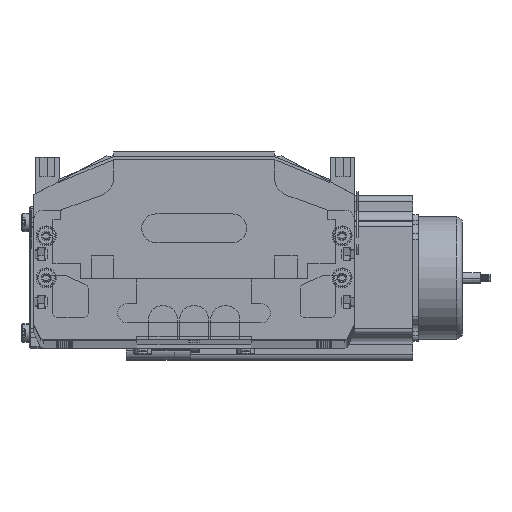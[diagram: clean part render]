
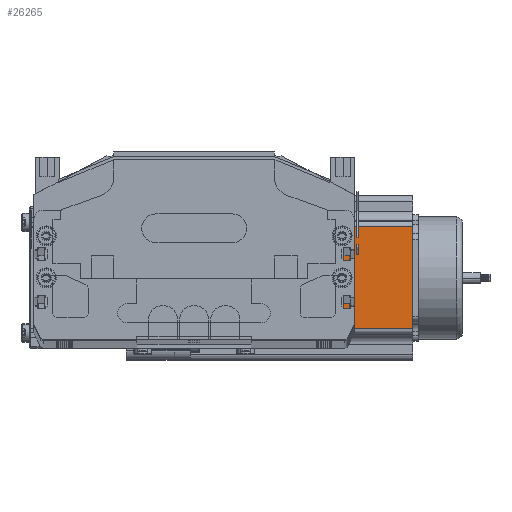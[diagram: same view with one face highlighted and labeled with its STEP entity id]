
A CAD part, top view. The second image highlights one B-rep face of the part: STEP entity #26265.
In plain terms, the highlighted planar face has unit normal (0, 0, 1) as drawn and (0, -1, 0) by its records, which use the part's own axes.
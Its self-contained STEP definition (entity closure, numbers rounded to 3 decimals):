
#26176 = ORIENTED_EDGE ( 'NONE', *, *, #26282, .F. ) ;
#26177 = EDGE_CURVE ( 'NONE', #26180, #26618, #85633, .T. ) ;
#26180 = VERTEX_POINT ( 'NONE', #85643 ) ;
#26265 = ADVANCED_FACE ( 'NONE', ( #85749 ), #85668, .F. ) ;
#26270 = ORIENTED_EDGE ( 'NONE', *, *, #26646, .T. ) ;
#26282 = EDGE_CURVE ( 'NONE', #26180, #26372, #85706, .T. ) ;
#26372 = VERTEX_POINT ( 'NONE', #85827 ) ;
#26478 = EDGE_CURVE ( 'NONE', #26618, #27243, #85867, .T. ) ;
#26618 = VERTEX_POINT ( 'NONE', #85636 ) ;
#26644 = ORIENTED_EDGE ( 'NONE', *, *, #26478, .T. ) ;
#26646 = EDGE_CURVE ( 'NONE', #27243, #26372, #86148, .T. ) ;
#27243 = VERTEX_POINT ( 'NONE', #87044 ) ;
#27293 = EDGE_LOOP ( 'NONE', ( #26644, #26270, #26176, #27486 ) ) ;
#27486 = ORIENTED_EDGE ( 'NONE', *, *, #26177, .T. ) ;
#85632 = CARTESIAN_POINT ( 'NONE',  ( 16.16, 0., 116.5 ) ) ;
#85633 = LINE ( 'NONE', #85632, #85645 ) ;
#85636 = CARTESIAN_POINT ( 'NONE',  ( 16.16, 0., 0. ) ) ;
#85643 = CARTESIAN_POINT ( 'NONE',  ( 16.16, 0., 116.5 ) ) ;
#85644 = DIRECTION ( 'NONE',  ( 0., 0., -1. ) ) ;
#85645 = VECTOR ( 'NONE', #85644, 1000. ) ;
#85663 = AXIS2_PLACEMENT_3D ( 'NONE', #85710, #85722, #85721 ) ;
#85668 = PLANE ( 'NONE',  #85663 ) ;
#85705 = CARTESIAN_POINT ( 'NONE',  ( 0., 0., 116.5 ) ) ;
#85706 = LINE ( 'NONE', #85705, #85742 ) ;
#85710 = CARTESIAN_POINT ( 'NONE',  ( 0., 0., 116.5 ) ) ;
#85721 = DIRECTION ( 'NONE',  ( 0., 0., 1. ) ) ;
#85722 = DIRECTION ( 'NONE',  ( 0., 1., 0. ) ) ;
#85741 = DIRECTION ( 'NONE',  ( 1., 0., 0. ) ) ;
#85742 = VECTOR ( 'NONE', #85741, 1000. ) ;
#85749 = FACE_OUTER_BOUND ( 'NONE', #27293, .T. ) ;
#85782 = VECTOR ( 'NONE', #85821, 1000. ) ;
#85821 = DIRECTION ( 'NONE',  ( 1., 0., 0. ) ) ;
#85822 = CARTESIAN_POINT ( 'NONE',  ( 0., 0., 0. ) ) ;
#85827 = CARTESIAN_POINT ( 'NONE',  ( 69.74, 0., 116.5 ) ) ;
#85867 = LINE ( 'NONE', #85822, #85782 ) ;
#86102 = VECTOR ( 'NONE', #86145, 1000. ) ;
#86145 = DIRECTION ( 'NONE',  ( 0., 0., 1. ) ) ;
#86146 = CARTESIAN_POINT ( 'NONE',  ( 69.74, 0., 116.5 ) ) ;
#86148 = LINE ( 'NONE', #86146, #86102 ) ;
#87044 = CARTESIAN_POINT ( 'NONE',  ( 69.74, 0., 0. ) ) ;
